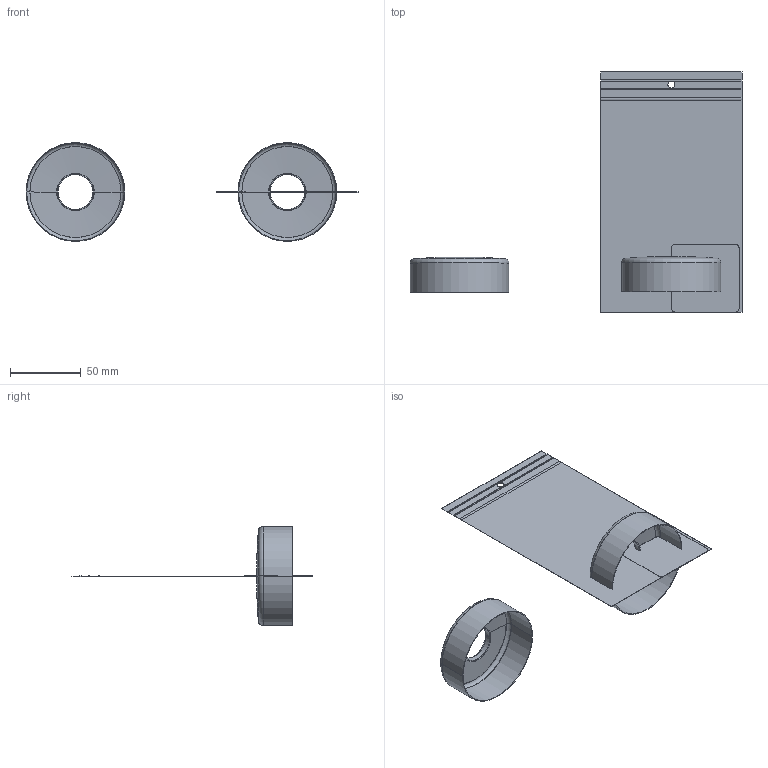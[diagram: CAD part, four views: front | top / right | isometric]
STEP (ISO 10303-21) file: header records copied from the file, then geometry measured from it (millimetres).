
FILE_DESCRIPTION((''),'2;1');
FILE_NAME('13643--_ASM','2026-10-14T09:43:10',('simi1'),(''),'CREO PARAMETRIC BY PTC INC, 2022244','CREO PARAMETRIC BY PTC INC, 2022244','');
FILE_SCHEMA(('CONFIG_CONTROL_DESIGN'));
Length unit declared in the file: millimetre
Products named in the file (5): 44424--; 4921800; 4499600; SMALL_LABEL_ZIPPER_BAG_ASM; 13643--_ASM
Assembly tree (5 placements, depth 3):
  13643--_ASM
    44424--  x2
    SMALL_LABEL_ZIPPER_BAG_ASM
      4921800
      4499600
Bounding box: 235 x 170 x 70 mm (x, y, z)
Volume: 12233.9 mm3; surface area: 74013.7 mm2
Topology: 4 solids, 6 shells, 86 faces, 204 edges, 124 vertices
Faces by surface type: plane 35, cylinder 27, torus 16, sphere 8
Entity records: 2001 total; most frequent: DIRECTION 364, CARTESIAN_POINT 326, ORIENTED_EDGE 304, EDGE_CURVE 154, AXIS2_PLACEMENT_3D 134, VECTOR 96, LINE 96, VERTEX_POINT 96
